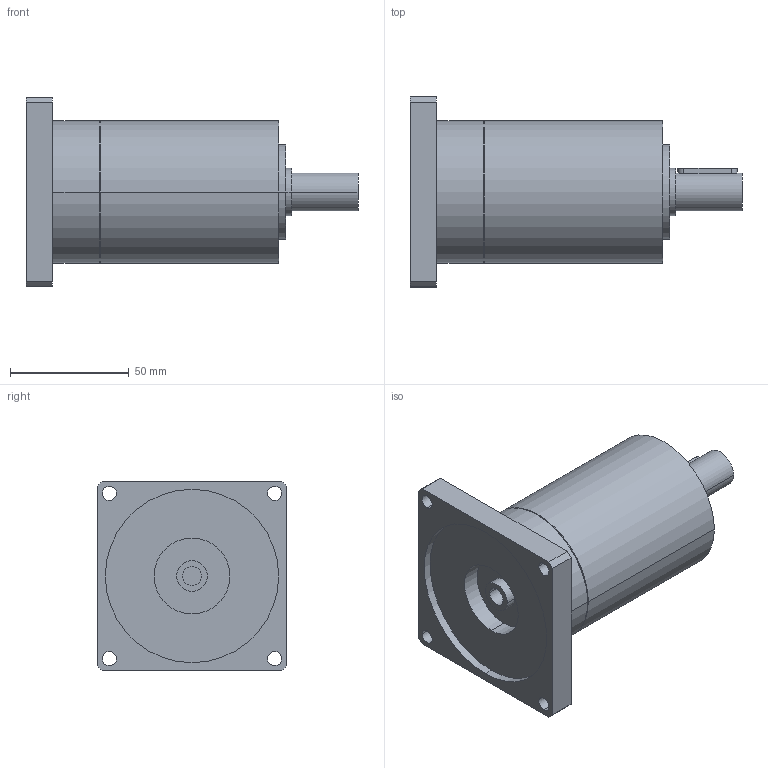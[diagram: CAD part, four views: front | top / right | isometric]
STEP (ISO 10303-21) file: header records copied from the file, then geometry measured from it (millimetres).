
FILE_DESCRIPTION(('CoCreate Modeling STEP Export'),'2;1');
FILE_NAME('GPR75_ig-9-12-16-20-24-30-36_16_B14_8_P06.stp','2014-08-25T16:05:54',(''),(''),'CoCreate Modeling STEP processor for AP214 (Solid Model)','CoCreate Modeling 16.00C 25-Feb-2009 (C) Parametric Technology GmbH','');
FILE_SCHEMA(('AUTOMOTIVE_DESIGN { 1 0 10303 214 1 1 1 1 }'));
Length unit declared in the file: millimetre
Products named in the file (2): GPR75_ig-9-12-16-20-24-30-36_16_B14_8_P06
Assembly tree (1 placements, depth 2):
  GPR75_ig-9-12-16-20-24-30-36_16_B14_8_P06
    GPR75_ig-9-12-16-20-24-30-36_16_B14_8_P06
Bounding box: 139.9 x 80 x 80 mm (x, y, z)
Volume: 327163.5 mm3; surface area: 40089.1 mm2
Topology: 1 solids, 1 shells, 70 faces, 189 edges, 133 vertices
Faces by surface type: cylinder 42, plane 22, cone 6
Entity records: 1944 total; most frequent: ORIENTED_EDGE 374, CARTESIAN_POINT 361, DIRECTION 262, EDGE_CURVE 187, VERTEX_POINT 133, AXIS2_PLACEMENT_3D 98, EDGE_LOOP 92, FACE_OUTER_BOUND 70
